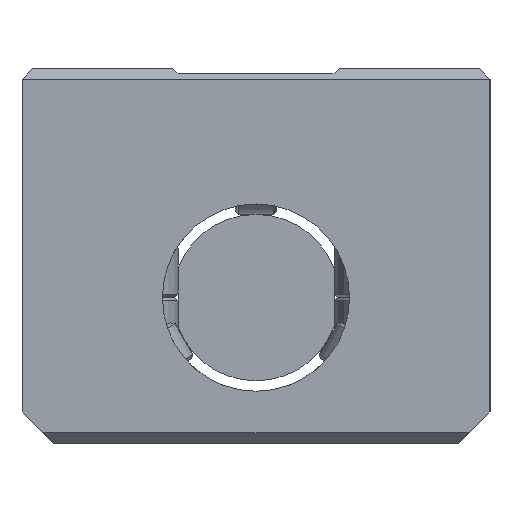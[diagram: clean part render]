
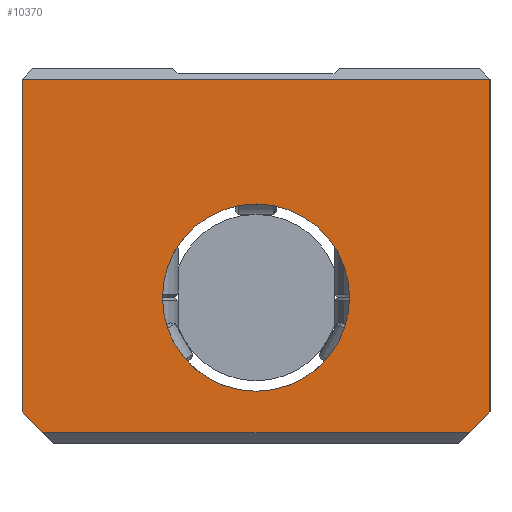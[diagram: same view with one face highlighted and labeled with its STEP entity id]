
A CAD part, left-side view. The second image highlights one B-rep face of the part: STEP entity #10370.
In plain terms, the highlighted planar face has unit normal (-1, 0, 0).
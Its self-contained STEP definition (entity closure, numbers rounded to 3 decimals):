
#8574=CARTESIAN_POINT('',(186.452,-22.5,21.));
#8575=VERTEX_POINT('',#8574);
#8584=CARTESIAN_POINT('',(186.452,-22.5,-11.));
#8585=VERTEX_POINT('',#8584);
#8586=CARTESIAN_POINT('',(186.452,-22.5,21.));
#8587=DIRECTION('',(0.0,0.0,-1.0));
#8588=VECTOR('',#8587,32.0);
#8589=LINE('',#8586,#8588);
#8590=EDGE_CURVE('',#8575,#8585,#8589,.T.);
#9115=CARTESIAN_POINT('',(186.452,20.5,-13.));
#9116=VERTEX_POINT('',#9115);
#9123=CARTESIAN_POINT('',(186.452,22.5,-11.));
#9124=VERTEX_POINT('',#9123);
#9125=CARTESIAN_POINT('',(186.452,20.5,-13.));
#9126=DIRECTION('',(0.0,0.707,0.707));
#9127=VECTOR('',#9126,2.828);
#9128=LINE('',#9125,#9127);
#9129=EDGE_CURVE('',#9116,#9124,#9128,.T.);
#9155=CARTESIAN_POINT('',(186.452,-20.5,-13.));
#9156=VERTEX_POINT('',#9155);
#9163=CARTESIAN_POINT('',(186.452,-20.5,-13.));
#9164=DIRECTION('',(0.0,1.0,0.0));
#9165=VECTOR('',#9164,41.0);
#9166=LINE('',#9163,#9165);
#9167=EDGE_CURVE('',#9156,#9116,#9166,.T.);
#9249=CARTESIAN_POINT('',(186.452,22.5,21.));
#9250=VERTEX_POINT('',#9249);
#9257=CARTESIAN_POINT('',(186.452,22.5,21.));
#9258=DIRECTION('',(0.0,-1.0,0.0));
#9259=VECTOR('',#9258,45.0);
#9260=LINE('',#9257,#9259);
#9261=EDGE_CURVE('',#9250,#8575,#9260,.T.);
#9542=CARTESIAN_POINT('',(186.452,-22.5,-11.));
#9543=DIRECTION('',(0.0,0.707,-0.707));
#9544=VECTOR('',#9543,2.828);
#9545=LINE('',#9542,#9544);
#9546=EDGE_CURVE('',#8585,#9156,#9545,.T.);
#9591=CARTESIAN_POINT('',(186.452,22.5,-11.));
#9592=DIRECTION('',(0.0,0.0,1.0));
#9593=VECTOR('',#9592,32.0);
#9594=LINE('',#9591,#9593);
#9595=EDGE_CURVE('',#9124,#9250,#9594,.T.);
#10285=CARTESIAN_POINT('',(186.452,9.0,0.));
#10286=VERTEX_POINT('',#10285);
#10287=CARTESIAN_POINT('',(186.452,0.0,0.0));
#10288=DIRECTION('',(1.0,0.0,0.0));
#10289=DIRECTION('',(0.0,-1.0,0.0));
#10290=AXIS2_PLACEMENT_3D('',#10287,#10288,#10289);
#10291=CIRCLE('',#10290,9.0);
#10292=EDGE_CURVE('',#10286,#10286,#10291,.T.);
#10354=CARTESIAN_POINT('',(186.452,-15.25,21.75));
#10355=DIRECTION('',(1.0,0.0,0.0));
#10356=DIRECTION('',(0.0,0.0,-1.0));
#10357=AXIS2_PLACEMENT_3D('',#10354,#10355,#10356);
#10358=PLANE('',#10357);
#10359=ORIENTED_EDGE('',*,*,#9167,.F.);
#10360=ORIENTED_EDGE('',*,*,#9546,.F.);
#10361=ORIENTED_EDGE('',*,*,#8590,.F.);
#10362=ORIENTED_EDGE('',*,*,#9261,.F.);
#10363=ORIENTED_EDGE('',*,*,#9595,.F.);
#10364=ORIENTED_EDGE('',*,*,#9129,.F.);
#10365=EDGE_LOOP('',(#10359,#10360,#10361,#10362,#10363,#10364));
#10366=FACE_OUTER_BOUND('',#10365,.T.);
#10367=ORIENTED_EDGE('',*,*,#10292,.T.);
#10368=EDGE_LOOP('',(#10367));
#10369=FACE_BOUND('',#10368,.T.);
#10370=ADVANCED_FACE('',(#10366,#10369),#10358,.F.);
